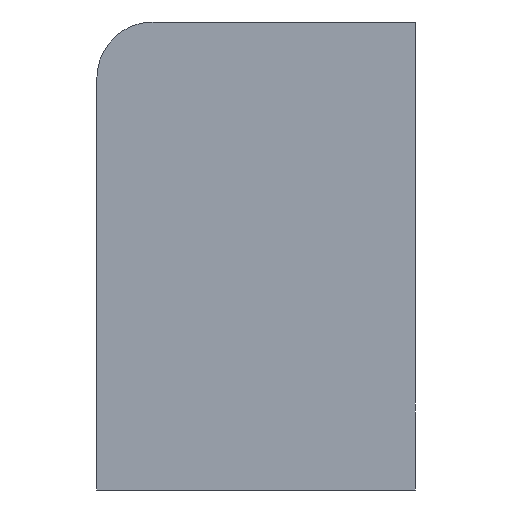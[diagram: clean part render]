
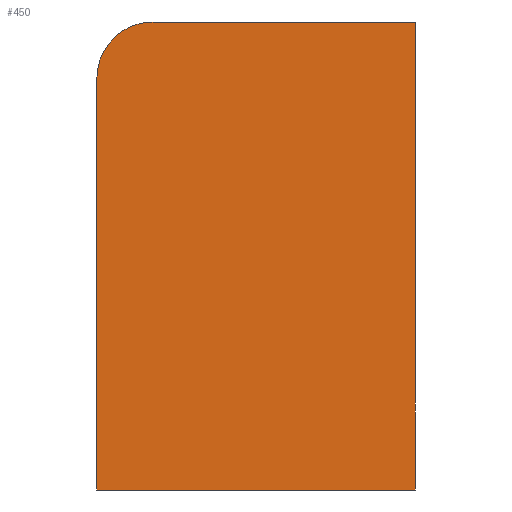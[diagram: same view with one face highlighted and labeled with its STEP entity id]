
A CAD part, left-side view. The second image highlights one B-rep face of the part: STEP entity #450.
In plain terms, the highlighted planar face has unit normal (-1, 0, 0).
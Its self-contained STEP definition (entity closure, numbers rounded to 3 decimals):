
#233=CARTESIAN_POINT('Vertex',(0.,0.,125.)) ;
#236=CARTESIAN_POINT('Line Origine',(0.,0.,62.5)) ;
#240=CARTESIAN_POINT('Vertex',(0.,0.,0.)) ;
#329=CARTESIAN_POINT('Vertex',(0.,85.,0.)) ;
#332=CARTESIAN_POINT('Line Origine',(0.,85.,55.)) ;
#336=CARTESIAN_POINT('Vertex',(0.,85.,110.)) ;
#396=CARTESIAN_POINT('Line Origine',(0.,42.5,0.)) ;
#414=CARTESIAN_POINT('Axis2P3D Location',(0.,70.,110.)) ;
#418=CARTESIAN_POINT('Vertex',(0.,70.,125.)) ;
#433=CARTESIAN_POINT('Axis2P3D Location',(0.,85.,0.)) ;
#438=CARTESIAN_POINT('Line Origine',(0.,35.,125.)) ;
#237=DIRECTION('Vector Direction',(0.,0.,1.)) ;
#333=DIRECTION('Vector Direction',(0.,0.,1.)) ;
#397=DIRECTION('Vector Direction',(0.,-1.,0.)) ;
#415=DIRECTION('Axis2P3D Direction',(-1.,0.,0.)) ;
#434=DIRECTION('Axis2P3D Direction',(-1.,0.,0.)) ;
#435=DIRECTION('Axis2P3D XDirection',(0.,-1.,0.)) ;
#439=DIRECTION('Vector Direction',(0.,1.,0.)) ;
#416=AXIS2_PLACEMENT_3D('Circle Axis2P3D',#414,#415,$) ;
#436=AXIS2_PLACEMENT_3D('Plane Axis2P3D',#433,#434,#435) ;
#444=ORIENTED_EDGE('',*,*,#242,.T.) ;
#445=ORIENTED_EDGE('',*,*,#442,.T.) ;
#446=ORIENTED_EDGE('',*,*,#420,.T.) ;
#447=ORIENTED_EDGE('',*,*,#338,.F.) ;
#448=ORIENTED_EDGE('',*,*,#400,.T.) ;
#238=VECTOR('Line Direction',#237,1.) ;
#334=VECTOR('Line Direction',#333,1.) ;
#398=VECTOR('Line Direction',#397,1.) ;
#440=VECTOR('Line Direction',#439,1.) ;
#450=ADVANCED_FACE('PartBody',(#449),#437,.T.) ;
#417=CIRCLE('generated circle',#416,15.) ;
#242=EDGE_CURVE('',#241,#234,#239,.T.) ;
#338=EDGE_CURVE('',#330,#337,#335,.T.) ;
#400=EDGE_CURVE('',#330,#241,#399,.T.) ;
#420=EDGE_CURVE('',#419,#337,#417,.T.) ;
#442=EDGE_CURVE('',#234,#419,#441,.T.) ;
#443=EDGE_LOOP('',(#444,#445,#446,#447,#448)) ;
#449=FACE_OUTER_BOUND('',#443,.T.) ;
#239=LINE('Line',#236,#238) ;
#335=LINE('Line',#332,#334) ;
#399=LINE('Line',#396,#398) ;
#441=LINE('Line',#438,#440) ;
#437=PLANE('',#436) ;
#234=VERTEX_POINT('',#233) ;
#241=VERTEX_POINT('',#240) ;
#330=VERTEX_POINT('',#329) ;
#337=VERTEX_POINT('',#336) ;
#419=VERTEX_POINT('',#418) ;
